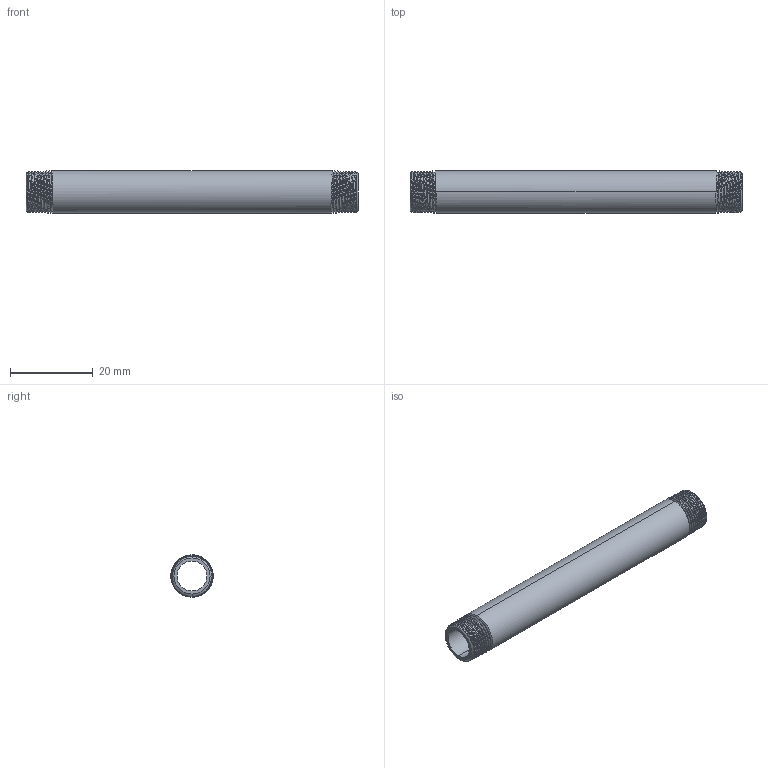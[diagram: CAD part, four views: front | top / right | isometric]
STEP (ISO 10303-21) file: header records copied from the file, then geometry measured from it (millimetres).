
FILE_DESCRIPTION (( 'STEP AP203' ), '1' );
FILE_NAME ('3D_R210_1-8x80_17185700.STEP', '2024-08-16T11:15:48', ( '' ), ( '' ), 'SwSTEP 2.0', 'SolidWorks 2024', '' );
FILE_SCHEMA (( 'CONFIG_CONTROL_DESIGN' ));
Length unit declared in the file: millimetre
Products named in the file (1): 3D_R210_1-8x80_17185700
Bounding box: 80 x 10.2 x 10.2 mm (x, y, z)
Volume: 3190 mm3; surface area: 4586.4 mm2
Topology: 1 solids, 1 shells, 54 faces, 150 edges, 98 vertices
Faces by surface type: cone 40, bspline 6, cylinder 4, plane 4
Entity records: 6878 total; most frequent: CARTESIAN_POINT 5622, ORIENTED_EDGE 300, DIRECTION 166, EDGE_CURVE 150, VERTEX_POINT 98, B_SPLINE_CURVE_WITH_KNOTS 86, AXIS2_PLACEMENT_3D 61, EDGE_LOOP 56
